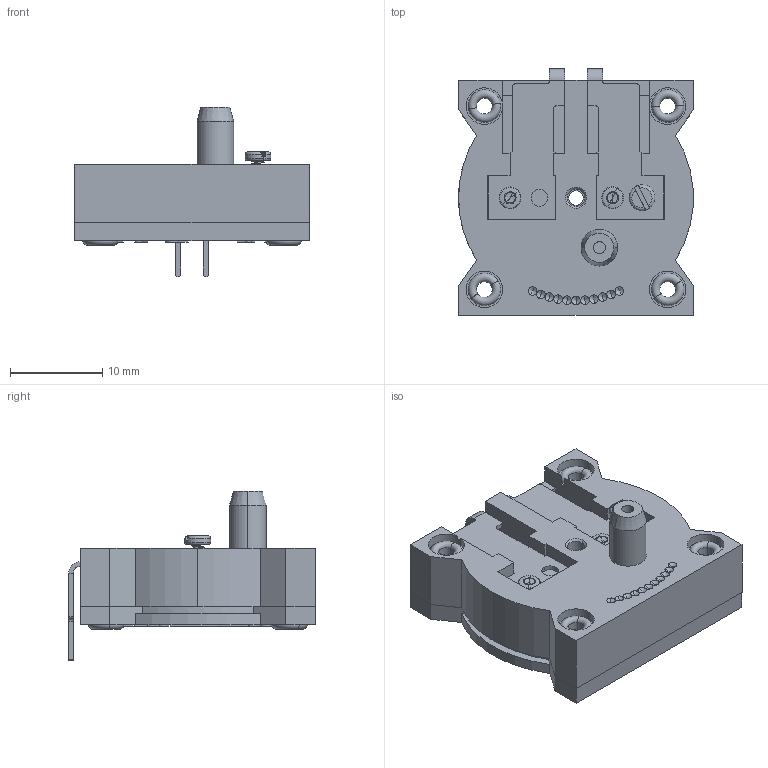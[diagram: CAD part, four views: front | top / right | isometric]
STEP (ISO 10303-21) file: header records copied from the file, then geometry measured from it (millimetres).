
FILE_DESCRIPTION (( 'STEP AP203' ), '1' );
FILE_NAME ('0502VO-XP-0009A.STEP', '2016-02-19T14:16:55', ( '' ), ( '' ), 'SwSTEP 2.0', 'SolidWorks 2016', '' );
FILE_SCHEMA (( 'CONFIG_CONTROL_DESIGN' ));
Length unit declared in the file: inch
Products named in the file (1): 0502VO-XP-0009A
Bounding box: 25.4 x 26.67 x 18.38 mm (x, y, z)
Surface area: 3441.1 mm2 (no closed solid volume)
Topology: 0 solids, 12 shells, 791 faces, 2411 edges, 1611 vertices
Faces by surface type: plane 475, bspline 192, cylinder 62, torus 32, cone 30
Entity records: 39116 total; most frequent: CARTESIAN_POINT 18916, ORIENTED_EDGE 4332, DIRECTION 3445, EDGE_CURVE 2385, VECTOR 1705, LINE 1705, VERTEX_POINT 1611, EDGE_LOOP 899
